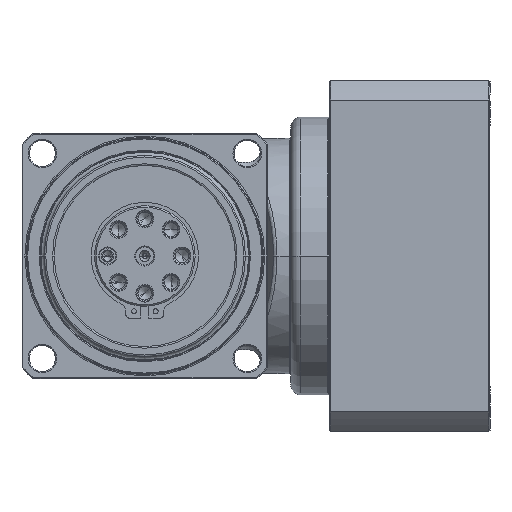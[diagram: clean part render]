
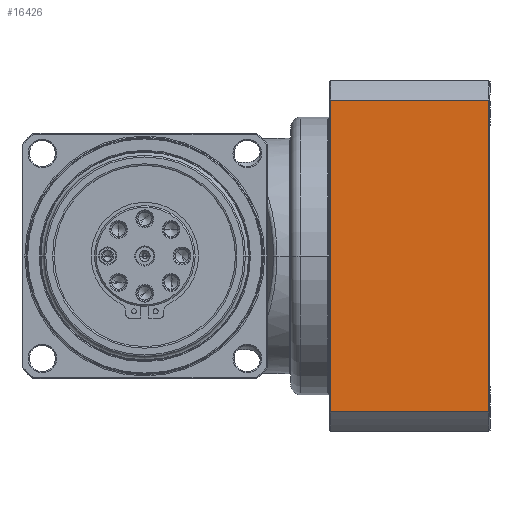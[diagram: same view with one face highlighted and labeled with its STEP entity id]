
A CAD part, left-side view. The second image highlights one B-rep face of the part: STEP entity #16426.
In plain terms, the highlighted planar face has unit normal (-1, 0, 0) as drawn and (0, -1, 0) by its records, which use the part's own axes.
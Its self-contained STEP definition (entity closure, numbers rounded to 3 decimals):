
#15374=DIRECTION('',(1.,0.,0.));
#15375=VECTOR('',#15374,154.961);
#15376=CARTESIAN_POINT('',(-77.481,-87.,
3.));
#15377=LINE('',#15376,#15375);
#15378=DIRECTION('',(0.,0.,1.));
#15379=VECTOR('',#15378,78.5);
#15380=CARTESIAN_POINT('',(-77.481,-87.,
3.));
#15381=LINE('',#15380,#15379);
#15382=DIRECTION('',(1.,0.,0.));
#15383=VECTOR('',#15382,154.961);
#15384=CARTESIAN_POINT('',(-77.481,-87.,
81.5));
#15385=LINE('',#15384,#15383);
#15386=DIRECTION('',(0.,0.,1.));
#15387=VECTOR('',#15386,78.5);
#15388=CARTESIAN_POINT('',(77.481,-87.,
3.));
#15389=LINE('',#15388,#15387);
#16189=CARTESIAN_POINT('',(-77.481,-87.,
81.5));
#16190=CARTESIAN_POINT('',(77.481,-87.,
81.5));
#16191=VERTEX_POINT('',#16189);
#16192=VERTEX_POINT('',#16190);
#16226=CARTESIAN_POINT('',(-77.481,-87.,3.));
#16228=VERTEX_POINT('',#16226);
#16231=CARTESIAN_POINT('',(77.481,-87.,
3.));
#16232=VERTEX_POINT('',#16231);
#16412=CARTESIAN_POINT('',(-87.,-87.,0.));
#16413=DIRECTION('',(0.,-1.,0.));
#16414=DIRECTION('',(1.,0.,0.));
#16415=AXIS2_PLACEMENT_3D('',#16412,#16413,#16414);
#16416=PLANE('',#16415);
#16418=ORIENTED_EDGE('',*,*,#16417,.F.);
#16420=ORIENTED_EDGE('',*,*,#16419,.T.);
#16421=ORIENTED_EDGE('',*,*,#16402,.T.);
#16423=ORIENTED_EDGE('',*,*,#16422,.F.);
#16424=EDGE_LOOP('',(#16418,#16420,#16421,#16423));
#16425=FACE_OUTER_BOUND('',#16424,.F.);
#16426=ADVANCED_FACE('',(#16425),#16416,.T.);
#16402=EDGE_CURVE('',#16191,#16192,#15385,.T.);
#16417=EDGE_CURVE('',#16228,#16232,#15377,.T.);
#16419=EDGE_CURVE('',#16228,#16191,#15381,.T.);
#16422=EDGE_CURVE('',#16232,#16192,#15389,.T.);
